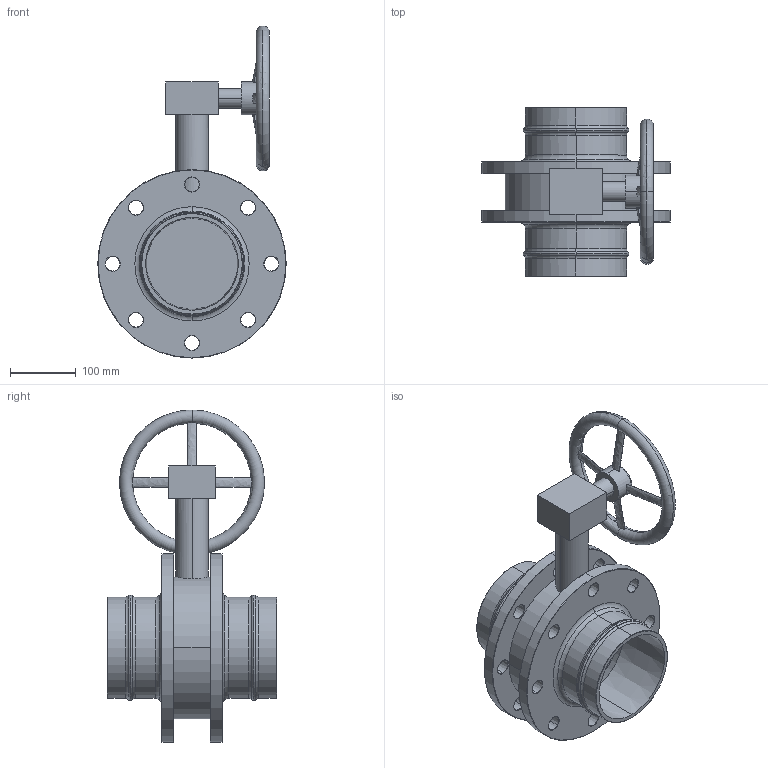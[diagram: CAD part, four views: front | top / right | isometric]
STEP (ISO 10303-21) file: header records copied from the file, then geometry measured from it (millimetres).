
FILE_DESCRIPTION((''),'2;1');
FILE_NAME('AU15905100_AU15915100_','2017-05-16T',('Administrator'),(''),'PRO/ENGINEER BY PARAMETRIC TECHNOLOGY CORPORATION, 2009360','PRO/ENGINEER BY PARAMETRIC TECHNOLOGY CORPORATION, 2009360','');
FILE_SCHEMA(('AUTOMOTIVE_DESIGN_CC2 { 1 2 10303 214 -1 1 5 2 }'));
Length unit declared in the file: millimetre
Products named in the file (1): AU15905100_AU15915100_
Bounding box: 285.93 x 256.65 x 503.97 mm (x, y, z)
Volume: 5034827.3 mm3; surface area: 529674.3 mm2
Topology: 1 solids, 1 shells, 202 faces, 530 edges, 334 vertices
Faces by surface type: cone 120, torus 38, cylinder 20, plane 16, extrusion 8
Entity records: 8540 total; most frequent: CARTESIAN_POINT 1582, DIRECTION 1242, ORIENTED_EDGE 1060, AXIS2_PLACEMENT_3D 536, PRESENTATION_STYLE_ASSIGNMENT 531, STYLED_ITEM 531, CURVE_STYLE 530, EDGE_CURVE 530
